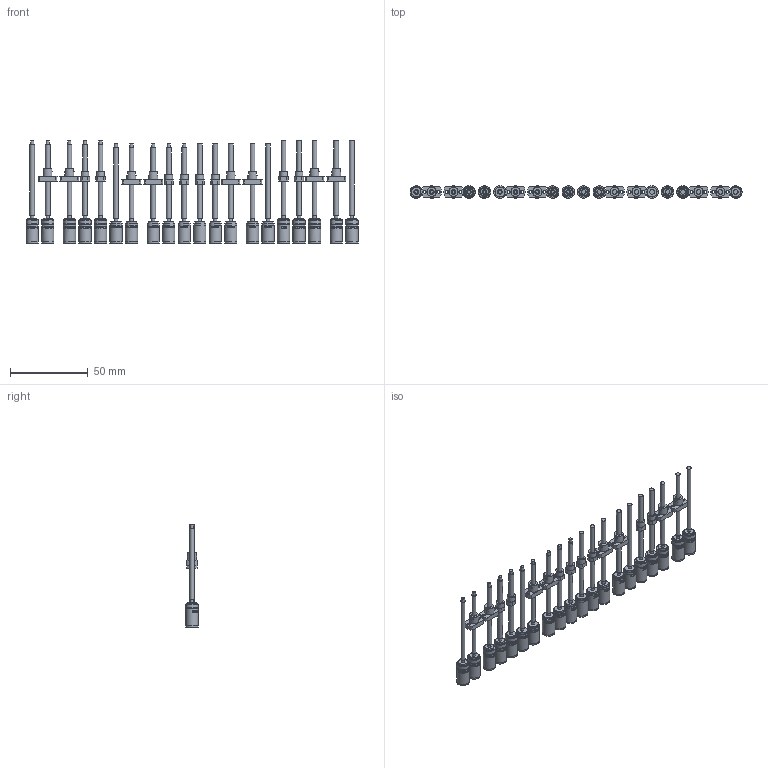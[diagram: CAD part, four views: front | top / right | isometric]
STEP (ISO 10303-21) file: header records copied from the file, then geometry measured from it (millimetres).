
FILE_DESCRIPTION(/* description */ (''),/* implementation_level */ '2;1');
FILE_NAME(/* name */ '08L-2stage_SL_standard_KWNx_KWS1_KF2.stp',/* time_stamp */ '2024-02-23T13:59:26+01:00',/* author */ ('DR. FRITZ FAULHABER GmbH & Co. KG'),/* organization */ ('DR. FRITZ FAULHABER GmbH & Co. KG'),/* preprocessor_version */ 'ST-DEVELOPER v19.3',/* originating_system */ 'SIEMENS PLM Software NX2212.4000',/* authorisation */ '');
FILE_SCHEMA (('AUTOMOTIVE_DESIGN { 1 0 10303 214 3 1 1 1 }'));
Length unit declared in the file: millimetre
Products named in the file (1): C_objects
Bounding box: 214 x 8 x 66.1 mm (x, y, z)
Volume: 23103.6 mm3; surface area: 23551 mm2
Topology: 20 solids, 20 shells, 2387 faces, 5846 edges, 3889 vertices
Faces by surface type: plane 1296, bspline 570, cylinder 481, cone 40
Full cylindrical faces by diameter (mm): 1.8 x16, 2 x10, 2.2 x20, 2.55 x20, 2.95 x20, 3 x36, 4.959 x30, 5 x8, 6 x38, 6.5 x10, 7 x10, 7.8 x10, 7.99 x10, 8 x60
Entity records: 108758 total; most frequent: CARTESIAN_POINT 48201, ORIENTED_EDGE 10856, DIRECTION 7542, EDGE_CURVE 5428, VERTEX_POINT 3812, EDGE_LOOP 3150, AXIS2_PLACEMENT_3D 3130, B_SPLINE_CURVE_WITH_KNOTS 2835
